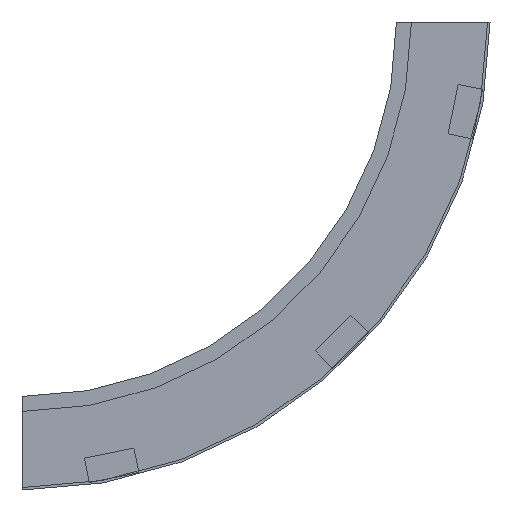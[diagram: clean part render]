
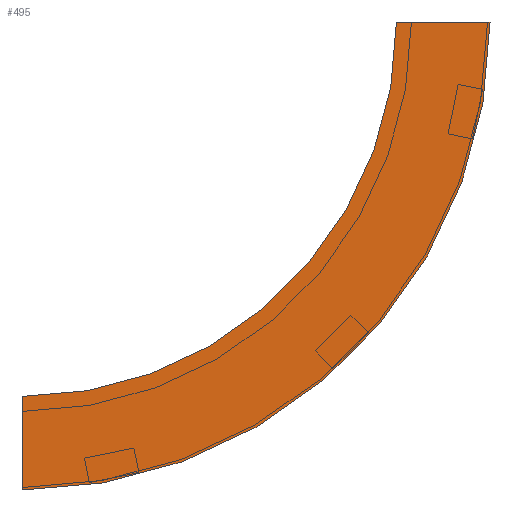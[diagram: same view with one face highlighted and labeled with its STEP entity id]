
A CAD part, left-side view. The second image highlights one B-rep face of the part: STEP entity #495.
In plain terms, the highlighted planar face has unit normal (-1, 0, 0) as drawn and (1, 0, 0) by its records, which use the part's own axes.
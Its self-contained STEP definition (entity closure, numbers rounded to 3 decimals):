
#13 = EDGE_CURVE ( 'NONE', #554, #92, #68, .T. ) ;
#16 = VECTOR ( 'NONE', #130, 1000. ) ;
#35 = DIRECTION ( 'NONE',  ( -1., 0., 0. ) ) ;
#51 = ORIENTED_EDGE ( 'NONE', *, *, #236, .F. ) ;
#68 = LINE ( 'NONE', #173, #252 ) ;
#86 = DIRECTION ( 'NONE',  ( 0., -1., 0. ) ) ;
#90 = CIRCLE ( 'NONE', #325, 375. ) ;
#92 = VERTEX_POINT ( 'NONE', #326 ) ;
#119 = ORIENTED_EDGE ( 'NONE', *, *, #13, .F. ) ;
#130 = DIRECTION ( 'NONE',  ( 0., 0., 1. ) ) ;
#173 = CARTESIAN_POINT ( 'NONE',  ( 0., -75., 0. ) ) ;
#179 = AXIS2_PLACEMENT_3D ( 'NONE', #261, #329, #369 ) ;
#200 = CARTESIAN_POINT ( 'NONE',  ( 0., -75., 0. ) ) ;
#214 = VERTEX_POINT ( 'NONE', #362 ) ;
#232 = EDGE_CURVE ( 'NONE', #554, #214, #90, .T. ) ;
#236 = EDGE_CURVE ( 'NONE', #92, #441, #268, .T. ) ;
#242 = DIRECTION ( 'NONE',  ( 0., 1., 0. ) ) ;
#249 = PLANE ( 'NONE',  #389 ) ;
#252 = VECTOR ( 'NONE', #242, 1000. ) ;
#261 = CARTESIAN_POINT ( 'NONE',  ( 0., 300., 0. ) ) ;
#268 = CIRCLE ( 'NONE', #179, 300. ) ;
#295 = CARTESIAN_POINT ( 'NONE',  ( 0., -75., 0. ) ) ;
#325 = AXIS2_PLACEMENT_3D ( 'NONE', #446, #493, #86 ) ;
#326 = CARTESIAN_POINT ( 'NONE',  ( 0., 0., 0. ) ) ;
#329 = DIRECTION ( 'NONE',  ( 1., 0., 0. ) ) ;
#362 = CARTESIAN_POINT ( 'NONE',  ( 0., 300., -375. ) ) ;
#369 = DIRECTION ( 'NONE',  ( 0., -1., 0. ) ) ;
#387 = CARTESIAN_POINT ( 'NONE',  ( 0., 300., -300. ) ) ;
#389 = AXIS2_PLACEMENT_3D ( 'NONE', #295, #35, #482 ) ;
#441 = VERTEX_POINT ( 'NONE', #387 ) ;
#442 = CARTESIAN_POINT ( 'NONE',  ( 0., 300., -375. ) ) ;
#446 = CARTESIAN_POINT ( 'NONE',  ( 0., 300., 0. ) ) ;
#448 = EDGE_CURVE ( 'NONE', #214, #441, #563, .T. ) ;
#449 = ORIENTED_EDGE ( 'NONE', *, *, #232, .T. ) ;
#459 = ORIENTED_EDGE ( 'NONE', *, *, #448, .T. ) ;
#482 = DIRECTION ( 'NONE',  ( 0., 0., 1. ) ) ;
#493 = DIRECTION ( 'NONE',  ( 1., 0., 0. ) ) ;
#495 = ADVANCED_FACE ( 'NONE', ( #527 ), #249, .F. ) ;
#527 = FACE_OUTER_BOUND ( 'NONE', #549, .T. ) ;
#549 = EDGE_LOOP ( 'NONE', ( #51, #119, #449, #459 ) ) ;
#554 = VERTEX_POINT ( 'NONE', #200 ) ;
#563 = LINE ( 'NONE', #442, #16 ) ;
